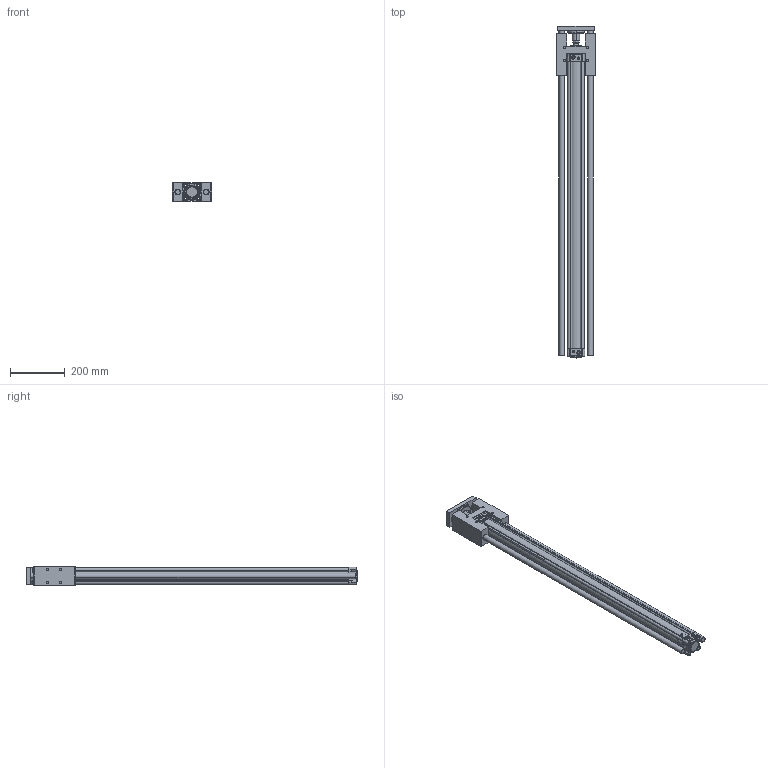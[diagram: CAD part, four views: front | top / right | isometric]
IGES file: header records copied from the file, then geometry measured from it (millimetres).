
Start section: SolidWorks IGES file using analytic representation for surfaces
Global section: file name: D:\ARICA 3D 禽Z軲LER\3D IGES\DNC-H\KDNT\50\KDNT50X1000H-YATAK.IGS,1; native system: 5HSolidWorks 2013; preprocessor: SolidWorks 2013; author: user; date: 160518.134245; units: millimetre
Bounding box: 142 x 1208.4 x 68.5 mm (x, y, z)
Surface area: 1024090.6 mm2 (no closed solid volume)
Topology: 0 solids, 0 shells, 973 faces, 18398 edges, 18394 vertices
Faces by surface type: revolution 576, bspline 397
